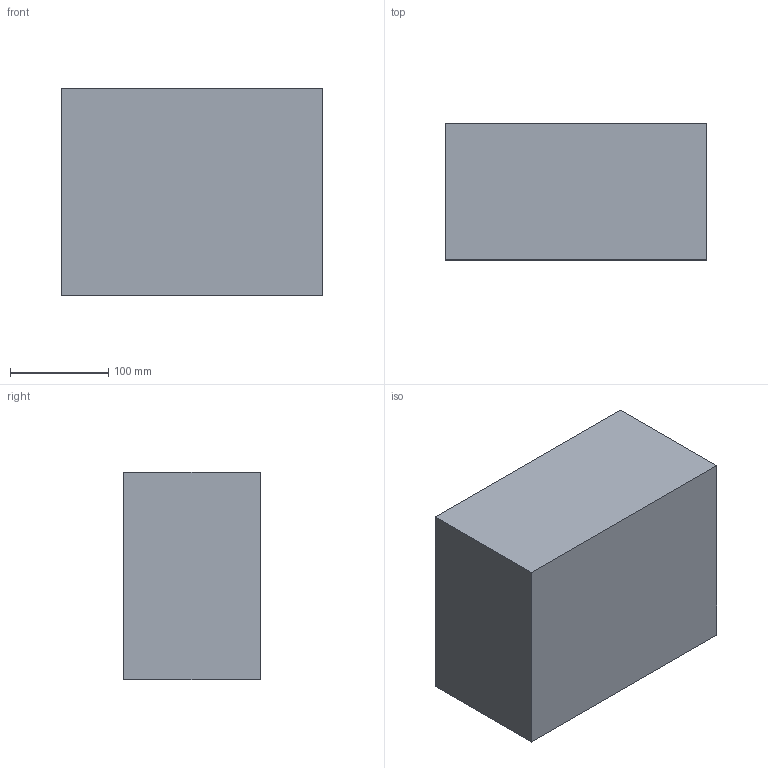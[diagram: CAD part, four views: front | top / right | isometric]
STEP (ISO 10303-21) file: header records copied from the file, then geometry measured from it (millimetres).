
FILE_DESCRIPTION (( 'STEP AP214' ), '1' );
FILE_NAME ('1300E - 933 TOP PID 2-21-2025.STEP', '2025-05-22T00:34:04', ( '' ), ( '' ), 'SwSTEP 2.0', 'SolidWorks 2021', '' );
FILE_SCHEMA (( 'AUTOMOTIVE_DESIGN' ));
Length unit declared in the file: inch
Products named in the file (1): 1300E - 933 TOP PID 2-21-2025
Bounding box: 266.44 x 138.68 x 211.07 mm (x, y, z)
Volume: 2429814.9 mm3; surface area: 341612.5 mm2
Topology: 1 solids, 1 shells, 69 faces, 156 edges, 86 vertices
Faces by surface type: plane 33, cylinder 24, bspline 8, sphere 4
Entity records: 1902 total; most frequent: CARTESIAN_POINT 424, ORIENTED_EDGE 304, DIRECTION 296, EDGE_CURVE 152, AXIS2_PLACEMENT_3D 102, LINE 92, VECTOR 92, VERTEX_POINT 86
